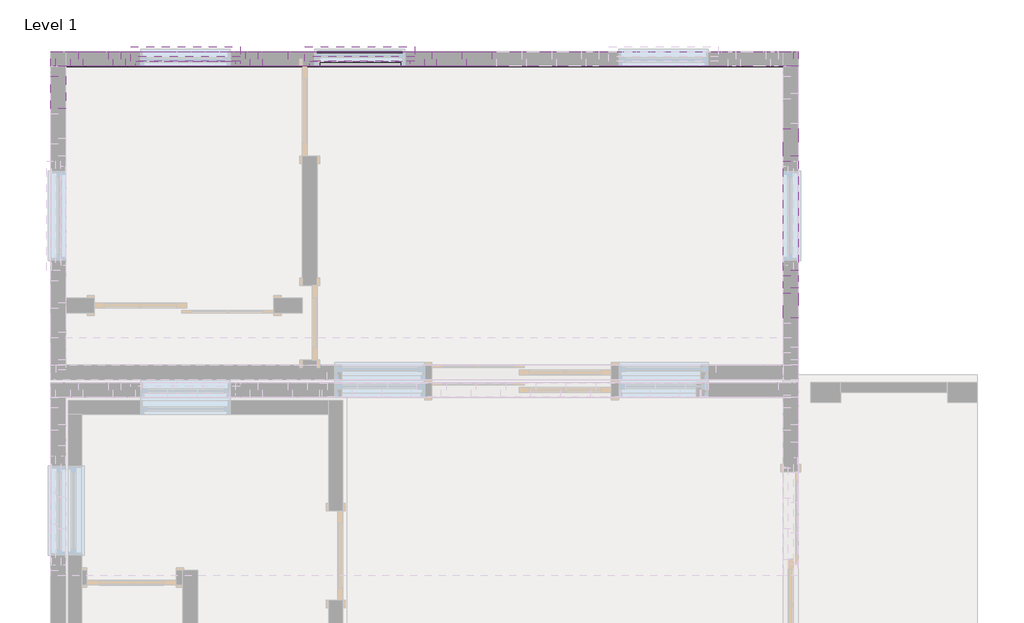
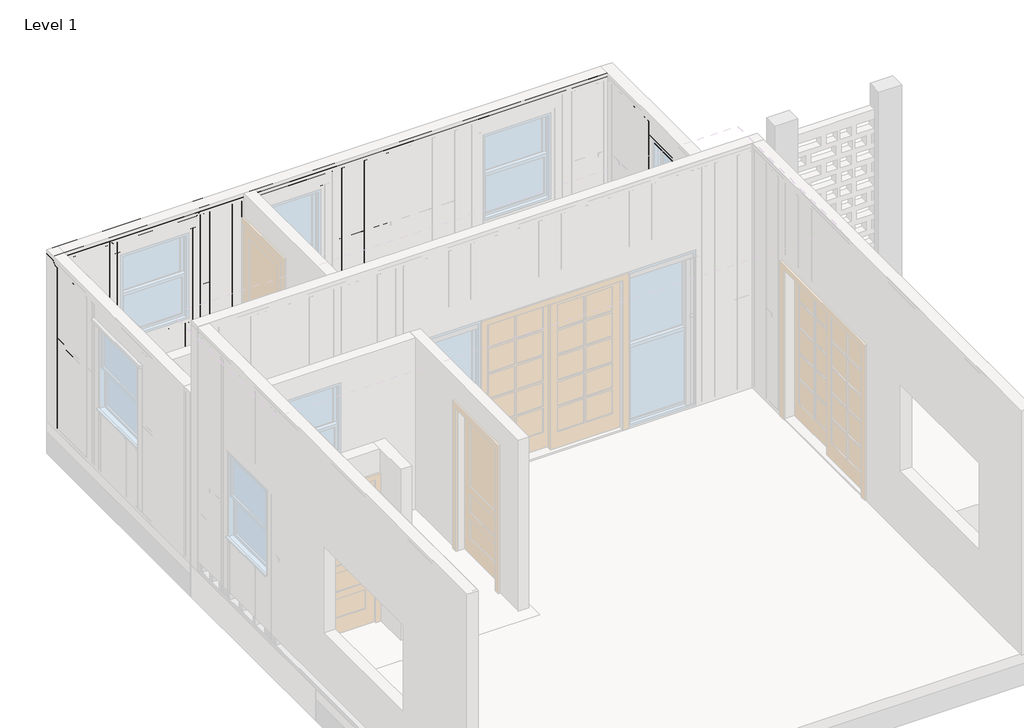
# One storey, part 11 of 12: 96 beams.
"""IFC4 building model written with IfcOpenShell, lengths in millimetres."""

from ifc_helpers import new_model, si_unit, frame, origin, origin_with_axes, place, context, project, spatial, polyline, outline, extrude, transform, mapped, element, save
from components import beam_7e1c7bff, beam_f315523f, beam_1339ae7a, beam_f39a6334, beam_836907a7, beam_e0318960, beam_733ad47f, beam_8a7418d2, beam_558964e0, beam_a7231d91, beam_47c8efd2, beam_e0216813, beam_53cde7c3, beam_b7962ac8, beam_e05c4371, beam_19b97b81, beam_9cccf745, beam_a2a0555c, beam_2d88acf2, beam_752c70e0, beam_6e482ad8, beam_b55a0d5f, beam_a4d90c35, beam_7e40e194, beam_9d6aa0d6, beam_9a5d82eb, beam_3f8316e0, beam_c7850aeb, beam_97ee1fa4, beam_1a8eef9e

model = new_model("IFC4")

# Units and contexts
model_context = context("Model", 3, world=origin())
ifc_project = project(units=[si_unit("LENGTHUNIT", "METRE", prefix="MILLI")], contexts=[model_context])

# Site, building, storey
site = spatial("IfcSite", under=ifc_project)
building = spatial("IfcBuilding", under=site)
storey = spatial("IfcBuildingStorey", under=building, Name="Level 1", Elevation=0.0)

# Beams
placement = place(None, origin())
beam_shape = beam_7e1c7bff(model_context)
element("IfcBeam", 1, ObjectType="Rectangular(Timber)-Beam : Timber_0' - 1 31/32\" x0' - 3 15/16\" _ContentGenerator", at=placement, inside=storey, context=model_context, shape_type="MappedRepresentation", body=[
    mapped(beam_shape, transform((-10158.0790766, -15508.8431336, 2235.2), x_axis=(1.0, 0.0, 0.0), y_axis=(0.0, 1.0, 0.0), z_axis=(0.0, 0.0, 1.0))),
])
element("IfcBeam", 2, ObjectType="Rectangular(Timber)-Beam : Timber_0' - 1 31/32\" x0' - 3 15/16\" _ContentGenerator", at=placement, inside=storey, context=model_context, shape_type="MappedRepresentation", body=[
    mapped(beam_shape, transform((-10158.0790766, -15508.8431336, 2235.2), x_axis=(1.0, 0.0, 0.0), y_axis=(0.0, 1.0, 0.0), z_axis=(0.0, 0.0, 1.0))),
])
element("IfcBeam", 3, ObjectType="Rectangular(Timber)-Beam : Timber_0' - 1 31/32\" x0' - 5 29/32\" _ContentGenerator", at=placement, inside=storey, context=model_context, shape_type="SweptSolid", body=[
    extrude(outline(polyline([(-3909.6790766, -16448.6731336), (-3909.6790766, -16499.4731336), (-4062.0790766, -16499.4731336), (-4062.0790766, -16448.6731336), (-3909.6790766, -16448.6731336)])), frame((0.0, 0.0, 50.8), z_axis=(0.0, 0.0, 1.0), x_axis=(1.0, 0.0, 0.0)), (0.0, 0.0, 1.0), 2286.0),
])
element("IfcBeam", 4, ObjectType="Rectangular(Timber)-Beam : Timber_0' - 1 31/32\" x0' - 5 29/32\" _ContentGenerator", at=placement, inside=storey, context=model_context, shape_type="SweptSolid", body=[
    extrude(outline(polyline([(2336.8, -3960.4740766), (2387.6, -3909.6740766), (2387.6, -11529.6690766), (2336.8, -11478.8690766), (2336.8, -3960.4740766)])), frame((0.0, -15534.2431336, 0.0), z_axis=(0.0, 1.0, 0.0), x_axis=(0.0, 0.0, 1.0)), (0.0, 0.0, 1.0), 152.4),
])
element("IfcBeam", 5, ObjectType="Rectangular(Timber)-Beam : Timber_0' - 1 31/32\" x0' - 5 29/32\" _ContentGenerator", at=placement, inside=storey, context=model_context, shape_type="SweptSolid", body=[
    extrude(outline(polyline([(2336.8, -11478.8690766), (2387.6, -11529.6690766), (0.0, -11529.6690766), (0.0, -11478.8690766), (2336.8, -11478.8690766)])), frame((0.0, -15534.2431336, 0.0), z_axis=(0.0, 1.0, 0.0), x_axis=(0.0, 0.0, 1.0)), (0.0, 0.0, 1.0), 152.4),
])
element("IfcBeam", 6, ObjectType="Rectangular(Timber)-Beam : Timber_0' - 1 31/32\" x0' - 5 29/32\" _ContentGenerator", at=placement, inside=storey, context=model_context, shape_type="SweptSolid", body=[
    extrude(outline(polyline([(2336.8, -9599.2690766), (2387.6, -9548.4690766), (2387.6, -10767.6690766), (2336.8, -10716.8690766), (2336.8, -9599.2690766)])), frame((0.0, -15534.2431336, 0.0), z_axis=(0.0, 1.0, 0.0), x_axis=(0.0, 0.0, 1.0)), (0.0, 0.0, 1.0), 152.4),
])
element("IfcBeam", 7, ObjectType="Rectangular(Timber)-Beam : Timber_0' - 1 31/32\" x0' - 5 29/32\" _ContentGenerator", at=placement, inside=storey, context=model_context, shape_type="SweptSolid", body=[
    extrude(outline(polyline([(2336.8, -10716.8690766), (2387.6, -10767.6690766), (50.8, -10767.6690766), (50.8, -10716.8690766), (2336.8, -10716.8690766)])), frame((0.0, -15534.2431336, 0.0), z_axis=(0.0, 1.0, 0.0), x_axis=(0.0, 0.0, 1.0)), (0.0, 0.0, 1.0), 152.4),
])
element("IfcBeam", 8, ObjectType="Rectangular(Timber)-Beam : Timber_0' - 1 31/32\" x0' - 5 29/32\" _ContentGenerator", at=placement, inside=storey, context=model_context, shape_type="SweptSolid", body=[
    extrude(outline(polyline([(2387.6, -9548.4690766), (2336.8, -9599.2690766), (50.8, -9599.2690766), (50.8, -9548.4690766), (2387.6, -9548.4690766)])), frame((0.0, -15534.2431336, 0.0), z_axis=(0.0, 1.0, 0.0), x_axis=(0.0, 0.0, 1.0)), (0.0, 0.0, 1.0), 152.4),
])
element("IfcBeam", 9, ObjectType="Rectangular(Timber)-Beam : Timber_0' - 1 31/32\" x0' - 5 29/32\" _ContentGenerator", at=placement, inside=storey, context=model_context, shape_type="SweptSolid", body=[
    extrude(outline(polyline([(-8938.8490766, -15534.2431336), (-8989.6490766, -15534.2431336), (-8989.6490766, -15381.8431336), (-8938.8490766, -15381.8431336), (-8938.8490766, -15534.2431336)])), frame((0.0, 0.0, 50.8), z_axis=(0.0, 0.0, 1.0), x_axis=(1.0, 0.0, 0.0)), (0.0, 0.0, 1.0), 2286.0),
])
element("IfcBeam", 10, ObjectType="Rectangular(Timber)-Beam : Timber_0' - 1 31/32\" x0' - 5 29/32\" _ContentGenerator", at=placement, inside=storey, context=model_context, shape_type="SweptSolid", body=[
    extrude(outline(polyline([(-7770.4890766, -15534.2431336), (-7821.2890766, -15534.2431336), (-7821.2890766, -15381.8431336), (-7770.4890766, -15381.8431336), (-7770.4890766, -15534.2431336)])), frame((0.0, 0.0, 50.8), z_axis=(0.0, 0.0, 1.0), x_axis=(1.0, 0.0, 0.0)), (0.0, 0.0, 1.0), 2286.0),
])
element("IfcBeam", 11, ObjectType="Rectangular(Timber)-Beam : Timber_0' - 1 31/32\" x0' - 5 29/32\" _ContentGenerator", at=placement, inside=storey, context=model_context, shape_type="SweptSolid", body=[
    extrude(outline(polyline([(-15585.0431336, 2336.8), (-15534.2431336, 2387.6), (-15534.2431336, 0.0), (-15585.0431336, 0.0), (-15585.0431336, 2336.8)])), frame((-11529.6790766, 0.0, 0.0), z_axis=(1.0, 0.0, 0.0), x_axis=(0.0, 1.0, 0.0)), (0.0, 0.0, 1.0), 152.4),
])
element("IfcBeam", 12, ObjectType="Rectangular(Timber)-Beam : Timber_0' - 1 31/32\" x0' - 5 29/32\" _ContentGenerator", at=placement, inside=storey, context=model_context, shape_type="SweptSolid", body=[
    extrude(outline(polyline([(-15585.0531336, 50.8), (-15585.0531336, 0.0), (-18734.6481336, 0.0), (-18683.8481336, 50.8), (-15585.0531336, 50.8)])), frame((-4062.0790766, 0.0, 0.0), z_axis=(1.0, 0.0, 0.0), x_axis=(0.0, 1.0, 0.0)), (0.0, 0.0, 1.0), 152.4),
])
element("IfcBeam", 13, ObjectType="Rectangular(Timber)-Beam : Timber_0' - 1 31/32\" x0' - 5 29/32\" _ContentGenerator", at=placement, inside=storey, context=model_context, shape_type="SweptSolid", body=[
    extrude(outline(polyline([(-11478.8690766, -15534.2431336), (-11478.8690766, -15381.8431336), (-3960.4740766, -15381.8431336), (-3960.4740766, -15534.2431336), (-11478.8690766, -15534.2431336)])), origin_with_axes(), (0.0, 0.0, 1.0), 50.8),
])
element("IfcBeam", 14, ObjectType="Rectangular(Timber)-Beam : Timber_0' - 1 31/32\" x0' - 5 29/32\" _ContentGenerator", at=placement, inside=storey, context=model_context, shape_type="SweptSolid", body=[
    extrude(outline(polyline([(-3909.6790766, -17617.0531342), (-4062.0790766, -17617.0531342), (-4062.0790766, -16499.4731336), (-3909.6790766, -16499.4731336), (-3909.6790766, -17617.0531342)])), frame((0.0, 0.0, 2101.85), z_axis=(0.0, 0.0, 1.0), x_axis=(1.0, 0.0, 0.0)), (0.0, 0.0, 1.0), 50.8),
])
element("IfcBeam", 15, ObjectType="Rectangular(Timber)-Beam : Timber_0' - 1 31/32\" x0' - 5 29/32\" _ContentGenerator", at=placement, inside=storey, context=model_context, shape_type="SweptSolid", body=[
    extrude(outline(polyline([(-3909.6790766, -17667.8531342), (-3909.6790766, -17718.6531342), (-4062.0790766, -17718.6531342), (-4062.0790766, -17667.8531342), (-3909.6790766, -17667.8531342)])), frame((0.0, 0.0, 50.8), z_axis=(0.0, 0.0, 1.0), x_axis=(1.0, 0.0, 0.0)), (0.0, 0.0, 1.0), 2286.0),
])
element("IfcBeam", 16, ObjectType="Rectangular(Timber)-Beam : Timber_0' - 1 31/32\" x0' - 5 29/32\" _ContentGenerator", at=placement, inside=storey, context=model_context, shape_type="SweptSolid", body=[
    extrude(outline(polyline([(-3909.6790766, -16397.8731336), (-3909.6790766, -16448.6731336), (-4062.0790766, -16448.6731336), (-4062.0790766, -16397.8731336), (-3909.6790766, -16397.8731336)])), frame((0.0, 0.0, 50.8), z_axis=(0.0, 0.0, 1.0), x_axis=(1.0, 0.0, 0.0)), (0.0, 0.0, 1.0), 2286.0),
])
element("IfcBeam", 17, ObjectType="Rectangular(Timber)-Beam : Timber_0' - 1 31/32\" x0' - 5 29/32\" _ContentGenerator", at=placement, inside=storey, context=model_context, shape_type="SweptSolid", body=[
    extrude(outline(polyline([(-8837.2790766, -15534.2431336), (-8888.0790766, -15534.2431336), (-8888.0790766, -15381.8431336), (-8837.2790766, -15381.8431336), (-8837.2790766, -15534.2431336)])), frame((0.0, 0.0, 50.8), z_axis=(0.0, 0.0, 1.0), x_axis=(1.0, 0.0, 0.0)), (0.0, 0.0, 1.0), 2082.8),
])
element("IfcBeam", 18, ObjectType="Rectangular(Timber)-Beam : Timber_0' - 1 31/32\" x0' - 5 29/32\" _ContentGenerator", at=placement, inside=storey, context=model_context, shape_type="SweptSolid", body=[
    extrude(outline(polyline([(-8888.0990766, -15534.2431336), (-8938.8990766, -15534.2431336), (-8938.8990766, -15381.8431336), (-8888.0990766, -15381.8431336), (-8888.0990766, -15534.2431336)])), frame((0.0, 0.0, 50.8), z_axis=(0.0, 0.0, 1.0), x_axis=(1.0, 0.0, 0.0)), (0.0, 0.0, 1.0), 2082.8),
])
element("IfcBeam", 19, ObjectType="Rectangular(Timber)-Beam : Timber_0' - 1 31/32\" x0' - 5 29/32\" _ContentGenerator", at=placement, inside=storey, context=model_context, shape_type="SweptSolid", body=[
    extrude(outline(polyline([(-8989.6490766, -15534.2431336), (-9040.4490766, -15534.2431336), (-9040.4490766, -15381.8431336), (-8989.6490766, -15381.8431336), (-8989.6490766, -15534.2431336)])), frame((0.0, 0.0, 50.8), z_axis=(0.0, 0.0, 1.0), x_axis=(1.0, 0.0, 0.0)), (0.0, 0.0, 1.0), 2286.0),
])
element("IfcBeam", 20, ObjectType="Rectangular(Timber)-Beam : Timber_0' - 1 31/32\" x0' - 5 29/32\" _ContentGenerator", at=placement, inside=storey, context=model_context, shape_type="SweptSolid", body=[
    extrude(outline(polyline([(-9497.6690766, -15534.2431336), (-9548.4690766, -15534.2431336), (-9548.4690766, -15381.8431336), (-9497.6690766, -15381.8431336), (-9497.6690766, -15534.2431336)])), frame((0.0, 0.0, 50.8), z_axis=(0.0, 0.0, 1.0), x_axis=(1.0, 0.0, 0.0)), (0.0, 0.0, 1.0), 2286.0),
])
element("IfcBeam", 21, ObjectType="Rectangular(Timber)-Beam : Timber_0' - 1 31/32\" x0' - 5 29/32\" _ContentGenerator", at=placement, inside=storey, context=model_context, shape_type="SweptSolid", body=[
    extrude(outline(polyline([(-10767.6690766, -15534.2431336), (-10818.4690766, -15534.2431336), (-10818.4690766, -15381.8431336), (-10767.6690766, -15381.8431336), (-10767.6690766, -15534.2431336)])), frame((0.0, 0.0, 50.8), z_axis=(0.0, 0.0, 1.0), x_axis=(1.0, 0.0, 0.0)), (0.0, 0.0, 1.0), 2286.0),
])
beam_2_shape = beam_f315523f(model_context)
element("IfcBeam", 22, ObjectType="Rectangular(Timber)-Beam : Timber_0' - 1 31/32\" x0' - 5 29/32\" _ContentGenerator", at=placement, inside=storey, context=model_context, shape_type="MappedRepresentation", body=[
    mapped(beam_2_shape, transform((-3985.8790766, -17731.3481339, 1314.45), x_axis=(0.0, 1.0000000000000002, 0.0), y_axis=(0.0, 0.0, -1.0000000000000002), z_axis=(-1.0000000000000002, 0.0, 0.0))),
])
beam_3_shape = beam_1339ae7a(model_context)
element("IfcBeam", 23, ObjectType="Rectangular(Timber)-Beam : Timber_0' - 1 31/32\" x0' - 5 29/32\" _ContentGenerator", at=placement, inside=storey, context=model_context, shape_type="MappedRepresentation", body=[
    mapped(beam_3_shape, transform((-3985.8790766, -16296.2431336, 1314.45), x_axis=(0.0, 1.0000000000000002, 0.0), y_axis=(0.0, 0.0, -1.0000000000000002), z_axis=(-1.0000000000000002, 0.0, 0.0))),
])
beam_4_shape = beam_f39a6334(model_context)
element("IfcBeam", 24, ObjectType="Rectangular(Timber)-Beam : Timber_0' - 1 31/32\" x0' - 5 29/32\" _ContentGenerator", at=placement, inside=storey, context=model_context, shape_type="MappedRepresentation", body=[
    mapped(beam_4_shape, transform((-9446.8740766, -15458.0431336, 1314.45), x_axis=(1.0000000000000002, 0.0, 0.0), y_axis=(0.0, 0.0, -1.0000000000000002), z_axis=(0.0, 1.0000000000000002, 0.0))),
])
beam_5_shape = beam_836907a7(model_context)
element("IfcBeam", 25, ObjectType="Rectangular(Timber)-Beam : Timber_0' - 1 31/32\" x0' - 5 29/32\" _ContentGenerator", at=placement, inside=storey, context=model_context, shape_type="MappedRepresentation", body=[
    mapped(beam_5_shape, transform((-7668.8840766, -15458.0431336, 1314.45), x_axis=(1.0000000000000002, 0.0, 0.0), y_axis=(0.0, 0.0, -1.0000000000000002), z_axis=(0.0, 1.0000000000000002, 0.0))),
])
beam_6_shape = beam_e0318960(model_context)
element("IfcBeam", 26, ObjectType="Rectangular(Timber)-Beam : Timber_0' - 1 31/32\" x0' - 5 29/32\" _ContentGenerator", at=placement, inside=storey, context=model_context, shape_type="MappedRepresentation", body=[
    mapped(beam_6_shape, transform((-8380.0690766, -15407.2431336, 2260.6), x_axis=(1.0, 0.0, 0.0), y_axis=(0.0, 1.0, 0.0), z_axis=(0.0, 0.0, 1.0))),
])
element("IfcBeam", 27, ObjectType="Rectangular(Timber)-Beam : Timber_0' - 1 31/32\" x0' - 5 29/32\" _ContentGenerator", at=placement, inside=storey, context=model_context, shape_type="MappedRepresentation", body=[
    mapped(beam_6_shape, transform((-8380.0690766, -15407.2431336, 2159.0), x_axis=(1.0, 0.0, 0.0), y_axis=(0.0, 0.0, -1.0), z_axis=(0.0, 1.0, 0.0))),
])
beam_7_shape = beam_733ad47f(model_context)
element("IfcBeam", 28, ObjectType="Rectangular(Timber)-Beam : Timber_0' - 1 31/32\" x0' - 5 29/32\" _ContentGenerator", at=placement, inside=storey, context=model_context, shape_type="MappedRepresentation", body=[
    mapped(beam_7_shape, transform((-10132.6790766, -15508.8431336, 2260.6), x_axis=(1.0, 0.0, 0.0), y_axis=(0.0, 1.0, 0.0), z_axis=(0.0, 0.0, 1.0))),
])
beam_8_shape = beam_8a7418d2(model_context)
element("IfcBeam", 29, ObjectType="Rectangular(Timber)-Beam : Timber_0' - 1 31/32\" x0' - 5 29/32\" _ContentGenerator", at=placement, inside=storey, context=model_context, shape_type="MappedRepresentation", body=[
    mapped(beam_8_shape, transform((-10158.0690766, -15407.2431336, 2260.6), x_axis=(1.0, 0.0, 0.0), y_axis=(0.0, 1.0, 0.0), z_axis=(0.0, 0.0, 1.0))),
])
element("IfcBeam", 30, ObjectType="Rectangular(Timber)-Beam : Timber_0' - 1 31/32\" x0' - 5 29/32\" _ContentGenerator", at=placement, inside=storey, context=model_context, shape_type="MappedRepresentation", body=[
    mapped(beam_8_shape, transform((-10158.0690766, -15407.2431336, 2159.0), x_axis=(1.0, 0.0, 0.0), y_axis=(0.0, 0.0, -1.0), z_axis=(0.0, 1.0, 0.0))),
])
beam_9_shape = beam_558964e0(model_context)
element("IfcBeam", 31, ObjectType="Rectangular(Timber)-Beam : Timber_0' - 1 31/32\" x0' - 5 29/32\" _ContentGenerator", at=placement, inside=storey, context=model_context, shape_type="MappedRepresentation", body=[
    mapped(beam_9_shape, transform((-3985.8790766, -16143.8431336, 1193.8), x_axis=(0.0, 0.0, 1.0), y_axis=(0.0, -1.0, 0.0), z_axis=(1.0, 0.0, 0.0))),
])
element("IfcBeam", 32, ObjectType="Rectangular(Timber)-Beam : Timber_0' - 1 31/32\" x0' - 5 29/32\" _ContentGenerator", at=placement, inside=storey, context=model_context, shape_type="MappedRepresentation", body=[
    mapped(beam_9_shape, transform((-11453.4690766, -15458.0431336, 1193.8), x_axis=(0.0, 0.0, 1.0), y_axis=(-1.0, 0.0, 0.0), z_axis=(0.0, -1.0, 0.0))),
])
element("IfcBeam", 33, ObjectType="Rectangular(Timber)-Beam : Timber_0' - 1 31/32\" x0' - 5 29/32\" _ContentGenerator", at=placement, inside=storey, context=model_context, shape_type="MappedRepresentation", body=[
    mapped(beam_9_shape, transform((-11402.6690766, -15458.0431336, 1193.8), x_axis=(0.0, 0.0, 1.0), y_axis=(-1.0, 0.0, 0.0), z_axis=(0.0, -1.0, 0.0))),
])
element("IfcBeam", 34, ObjectType="Rectangular(Timber)-Beam : Timber_0' - 1 31/32\" x0' - 5 29/32\" _ContentGenerator", at=placement, inside=storey, context=model_context, shape_type="MappedRepresentation", body=[
    mapped(beam_9_shape, transform((-11224.8790766, -15458.0431336, 1193.8), x_axis=(0.0, 0.0, 1.0), y_axis=(-1.0, 0.0, 0.0), z_axis=(0.0, -1.0, 0.0))),
])
element("IfcBeam", 35, ObjectType="Rectangular(Timber)-Beam : Timber_0' - 1 31/32\" x0' - 5 29/32\" _ContentGenerator", at=placement, inside=storey, context=model_context, shape_type="MappedRepresentation", body=[
    mapped(beam_9_shape, transform((-10920.0790766, -15458.0431336, 1193.8), x_axis=(0.0, 0.0, 1.0), y_axis=(-1.0, 0.0, 0.0), z_axis=(0.0, -1.0, 0.0))),
])
element("IfcBeam", 36, ObjectType="Rectangular(Timber)-Beam : Timber_0' - 1 31/32\" x0' - 5 29/32\" _ContentGenerator", at=placement, inside=storey, context=model_context, shape_type="MappedRepresentation", body=[
    mapped(beam_9_shape, transform((-9396.0790766, -15458.0431336, 1193.8), x_axis=(0.0, 0.0, 1.0), y_axis=(-1.0, 0.0, 0.0), z_axis=(0.0, -1.0, 0.0))),
])
element("IfcBeam", 37, ObjectType="Rectangular(Timber)-Beam : Timber_0' - 1 31/32\" x0' - 5 29/32\" _ContentGenerator", at=placement, inside=storey, context=model_context, shape_type="MappedRepresentation", body=[
    mapped(beam_9_shape, transform((-9091.2790766, -15458.0431336, 1193.8), x_axis=(0.0, 0.0, 1.0), y_axis=(-1.0, 0.0, 0.0), z_axis=(0.0, -1.0, 0.0))),
])
element("IfcBeam", 38, ObjectType="Rectangular(Timber)-Beam : Timber_0' - 1 31/32\" x0' - 5 29/32\" _ContentGenerator", at=placement, inside=storey, context=model_context, shape_type="MappedRepresentation", body=[
    mapped(beam_9_shape, transform((-7618.0790766, -15458.0431336, 1193.8), x_axis=(0.0, 0.0, 1.0), y_axis=(-1.0, 0.0, 0.0), z_axis=(0.0, -1.0, 0.0))),
])
element("IfcBeam", 39, ObjectType="Rectangular(Timber)-Beam : Timber_0' - 1 31/32\" x0' - 5 29/32\" _ContentGenerator", at=placement, inside=storey, context=model_context, shape_type="MappedRepresentation", body=[
    mapped(beam_9_shape, transform((-7313.2790766, -15458.0431336, 1193.8), x_axis=(0.0, 0.0, 1.0), y_axis=(-1.0, 0.0, 0.0), z_axis=(0.0, -1.0, 0.0))),
])
element("IfcBeam", 40, ObjectType="Rectangular(Timber)-Beam : Timber_0' - 1 31/32\" x0' - 5 29/32\" _ContentGenerator", at=placement, inside=storey, context=model_context, shape_type="MappedRepresentation", body=[
    mapped(beam_9_shape, transform((-7008.4790766, -15458.0431336, 1193.8), x_axis=(0.0, 0.0, 1.0), y_axis=(-1.0, 0.0, 0.0), z_axis=(0.0, -1.0, 0.0))),
])
element("IfcBeam", 41, ObjectType="Rectangular(Timber)-Beam : Timber_0' - 1 31/32\" x0' - 5 29/32\" _ContentGenerator", at=placement, inside=storey, context=model_context, shape_type="MappedRepresentation", body=[
    mapped(beam_9_shape, transform((-11453.4790766, -15610.4431336, 1193.8), x_axis=(0.0, 0.0, 1.0), y_axis=(0.0, -1.0, 0.0), z_axis=(1.0, 0.0, 0.0))),
])
element("IfcBeam", 42, ObjectType="Rectangular(Timber)-Beam : Timber_0' - 1 31/32\" x0' - 5 29/32\" _ContentGenerator", at=placement, inside=storey, context=model_context, shape_type="MappedRepresentation", body=[
    mapped(beam_9_shape, transform((-11453.4790766, -15991.4431336, 1193.8), x_axis=(0.0, 0.0, 1.0), y_axis=(0.0, -1.0, 0.0), z_axis=(1.0, 0.0, 0.0))),
])
element("IfcBeam", 43, ObjectType="Rectangular(Timber)-Beam : Timber_0' - 1 31/32\" x0' - 5 29/32\" _ContentGenerator", at=placement, inside=storey, context=model_context, shape_type="MappedRepresentation", body=[
    mapped(beam_9_shape, transform((-11351.8790766, -15458.0431336, 1193.8), x_axis=(0.0, 0.0, 1.0), y_axis=(-1.0, 0.0, 0.0), z_axis=(0.0, -1.0, 0.0))),
])
beam_10_shape = beam_a7231d91(model_context)
element("IfcBeam", 44, ObjectType="Rectangular(Timber)-Beam : Timber_0' - 1 31/32\" x0' - 5 29/32\" _ContentGenerator", at=placement, inside=storey, context=model_context, shape_type="MappedRepresentation", body=[
    mapped(beam_10_shape, transform((-10158.0790766, -15508.8431336, 2260.6), x_axis=(1.0, 0.0, 0.0), y_axis=(0.0, 1.0, 0.0), z_axis=(0.0, 0.0, 1.0))),
])
element("IfcBeam", 45, ObjectType="Rectangular(Timber)-Beam : Timber_0' - 1 31/32\" x0' - 5 29/32\" _ContentGenerator", at=placement, inside=storey, context=model_context, shape_type="MappedRepresentation", body=[
    mapped(beam_10_shape, transform((-8380.0790766, -15508.8431336, 2260.6), x_axis=(1.0, 0.0, 0.0), y_axis=(0.0, 1.0, 0.0), z_axis=(0.0, 0.0, 1.0))),
])
beam_11_shape = beam_47c8efd2(model_context)
element("IfcBeam", 46, ObjectType="Rectangular(Timber)-Beam : Timber_0' - 1 31/32\" x0' - 5 29/32\" _ContentGenerator", at=placement, inside=storey, context=model_context, shape_type="MappedRepresentation", body=[
    mapped(beam_11_shape, transform((-7719.6790766, -15458.0431336, 2413.0), x_axis=(1.0000000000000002, 0.0, 0.0), y_axis=(0.0, 0.0, -1.0000000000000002), z_axis=(0.0, 1.0000000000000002, 0.0))),
])
element("IfcBeam", 47, ObjectType="Rectangular(Timber)-Beam : Timber_0' - 1 31/32\" x0' - 5 29/32\" _ContentGenerator", at=placement, inside=storey, context=model_context, shape_type="MappedRepresentation", body=[
    mapped(beam_11_shape, transform((-7719.6790766, -15458.0431336, 2413.0), x_axis=(1.0000000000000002, 0.0, 0.0), y_axis=(0.0, 0.0, -1.0000000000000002), z_axis=(0.0, 1.0000000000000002, 0.0))),
])
element("IfcBeam", 48, ObjectType="Rectangular(Timber)-Beam : Timber_0' - 1 31/32\" x0' - 5 29/32\" _ContentGenerator", at=placement, inside=storey, context=model_context, shape_type="MappedRepresentation", body=[
    mapped(beam_11_shape, transform((-7719.6790766, -15458.0431336, 2413.0), x_axis=(1.0000000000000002, 0.0, 0.0), y_axis=(0.0, 0.0, -1.0000000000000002), z_axis=(0.0, 1.0000000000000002, 0.0))),
])
element("IfcBeam", 49, ObjectType="Rectangular(Timber)-Beam : Timber_0' - 1 31/32\" x0' - 5 29/32\" _ContentGenerator", at=placement, inside=storey, context=model_context, shape_type="MappedRepresentation", body=[
    mapped(beam_11_shape, transform((-7719.6790766, -15458.0431336, 2413.0), x_axis=(1.0000000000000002, 0.0, 0.0), y_axis=(0.0, 0.0, -1.0000000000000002), z_axis=(0.0, 1.0000000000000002, 0.0))),
])
beam_12_shape = beam_e0216813(model_context)
element("IfcBeam", 50, ObjectType="Rectangular(Timber)-Beam : Timber_0' - 1 31/32\" x0' - 5 29/32\" _ContentGenerator", at=placement, inside=storey, context=model_context, shape_type="MappedRepresentation", body=[
    mapped(beam_12_shape, transform((-10640.6690766, -15458.0431336, 1117.6), x_axis=(0.0, 0.0, 1.0), y_axis=(-1.0, 0.0, 0.0), z_axis=(0.0, -1.0, 0.0))),
])
element("IfcBeam", 51, ObjectType="Rectangular(Timber)-Beam : Timber_0' - 1 31/32\" x0' - 5 29/32\" _ContentGenerator", at=placement, inside=storey, context=model_context, shape_type="MappedRepresentation", body=[
    mapped(beam_12_shape, transform((-9675.4690766, -15458.0431336, 1117.6), x_axis=(0.0, 0.0, 1.0), y_axis=(-1.0, 0.0, 0.0), z_axis=(0.0, -1.0, 0.0))),
])
element("IfcBeam", 52, ObjectType="Rectangular(Timber)-Beam : Timber_0' - 1 31/32\" x0' - 5 29/32\" _ContentGenerator", at=placement, inside=storey, context=model_context, shape_type="MappedRepresentation", body=[
    mapped(beam_12_shape, transform((-7897.4690766, -15458.0431336, 1117.6), x_axis=(0.0, 0.0, 1.0), y_axis=(-1.0, 0.0, 0.0), z_axis=(0.0, -1.0, 0.0))),
])
element("IfcBeam", 53, ObjectType="Rectangular(Timber)-Beam : Timber_0' - 1 31/32\" x0' - 5 29/32\" _ContentGenerator", at=placement, inside=storey, context=model_context, shape_type="MappedRepresentation", body=[
    mapped(beam_12_shape, transform((-9624.6590766, -15458.0431336, 1117.6), x_axis=(0.0, 0.0, 1.0), y_axis=(-1.0, 0.0, 0.0), z_axis=(0.0, -1.0, 0.0))),
])
element("IfcBeam", 54, ObjectType="Rectangular(Timber)-Beam : Timber_0' - 1 31/32\" x0' - 5 29/32\" _ContentGenerator", at=placement, inside=storey, context=model_context, shape_type="MappedRepresentation", body=[
    mapped(beam_12_shape, transform((-10691.4790766, -15458.0431336, 1117.6), x_axis=(0.0, 0.0, 1.0), y_axis=(-1.0, 0.0, 0.0), z_axis=(0.0, -1.0, 0.0))),
])
beam_13_shape = beam_53cde7c3(model_context)
element("IfcBeam", 55, ObjectType="Rectangular(Timber)-Beam : Timber_0' - 1 31/32\" x0' - 5 29/32\" _ContentGenerator", at=placement, inside=storey, context=model_context, shape_type="MappedRepresentation", body=[
    mapped(beam_13_shape, transform((-7719.6715766, -15458.0431336, 25.4), x_axis=(-1.0000000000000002, 0.0, 0.0), y_axis=(0.0, 0.0, -1.0000000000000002), z_axis=(0.0, -1.0000000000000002, 0.0))),
])
element("IfcBeam", 56, ObjectType="Rectangular(Timber)-Beam : Timber_0' - 1 31/32\" x0' - 5 29/32\" _ContentGenerator", at=placement, inside=storey, context=model_context, shape_type="MappedRepresentation", body=[
    mapped(beam_13_shape, transform((-7719.6715766, -15458.0431336, 25.4), x_axis=(-1.0000000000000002, 0.0, 0.0), y_axis=(0.0, 0.0, -1.0000000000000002), z_axis=(0.0, -1.0000000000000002, 0.0))),
])
beam_14_shape = beam_b7962ac8(model_context)
element("IfcBeam", 57, ObjectType="Rectangular(Timber)-Beam : Timber_0' - 1 31/32\" x0' - 5 29/32\" _ContentGenerator", at=placement, inside=storey, context=model_context, shape_type="MappedRepresentation", body=[
    mapped(beam_14_shape, transform((-3985.8790766, -16626.4531336, 457.2), x_axis=(0.0, 0.0, 1.0), y_axis=(0.0, -1.0, 0.0), z_axis=(1.0, 0.0, 0.0))),
])
element("IfcBeam", 58, ObjectType="Rectangular(Timber)-Beam : Timber_0' - 1 31/32\" x0' - 5 29/32\" _ContentGenerator", at=placement, inside=storey, context=model_context, shape_type="MappedRepresentation", body=[
    mapped(beam_14_shape, transform((-3985.8790766, -17185.2531336, 457.2), x_axis=(0.0, 0.0, 1.0), y_axis=(0.0, -1.0, 0.0), z_axis=(1.0, 0.0, 0.0))),
])
element("IfcBeam", 59, ObjectType="Rectangular(Timber)-Beam : Timber_0' - 1 31/32\" x0' - 5 29/32\" _ContentGenerator", at=placement, inside=storey, context=model_context, shape_type="MappedRepresentation", body=[
    mapped(beam_14_shape, transform((-3985.8790766, -16880.4531336, 457.2), x_axis=(0.0, 0.0, 1.0), y_axis=(0.0, -1.0, 0.0), z_axis=(1.0, 0.0, 0.0))),
])
element("IfcBeam", 60, ObjectType="Rectangular(Timber)-Beam : Timber_0' - 1 31/32\" x0' - 5 29/32\" _ContentGenerator", at=placement, inside=storey, context=model_context, shape_type="MappedRepresentation", body=[
    mapped(beam_14_shape, transform((-10589.8690766, -15458.0431336, 457.2), x_axis=(0.0, 0.0, 1.0), y_axis=(-1.0, 0.0, 0.0), z_axis=(0.0, -1.0, 0.0))),
])
element("IfcBeam", 61, ObjectType="Rectangular(Timber)-Beam : Timber_0' - 1 31/32\" x0' - 5 29/32\" _ContentGenerator", at=placement, inside=storey, context=model_context, shape_type="MappedRepresentation", body=[
    mapped(beam_14_shape, transform((-9726.2690766, -15458.0431336, 457.2), x_axis=(0.0, 0.0, 1.0), y_axis=(-1.0, 0.0, 0.0), z_axis=(0.0, -1.0, 0.0))),
])
element("IfcBeam", 62, ObjectType="Rectangular(Timber)-Beam : Timber_0' - 1 31/32\" x0' - 5 29/32\" _ContentGenerator", at=placement, inside=storey, context=model_context, shape_type="MappedRepresentation", body=[
    mapped(beam_14_shape, transform((-10318.9457433, -15458.0431336, 457.2), x_axis=(0.0, 0.0, 1.0), y_axis=(-1.0, 0.0, 0.0), z_axis=(0.0, -1.0, 0.0))),
])
element("IfcBeam", 63, ObjectType="Rectangular(Timber)-Beam : Timber_0' - 1 31/32\" x0' - 5 29/32\" _ContentGenerator", at=placement, inside=storey, context=model_context, shape_type="MappedRepresentation", body=[
    mapped(beam_14_shape, transform((-9997.2124099, -15458.0431336, 457.2), x_axis=(0.0, 0.0, 1.0), y_axis=(-1.0, 0.0, 0.0), z_axis=(0.0, -1.0, 0.0))),
])
element("IfcBeam", 64, ObjectType="Rectangular(Timber)-Beam : Timber_0' - 1 31/32\" x0' - 5 29/32\" _ContentGenerator", at=placement, inside=storey, context=model_context, shape_type="MappedRepresentation", body=[
    mapped(beam_13_shape, transform((-7719.6715766, -15458.0431336, 2362.2), x_axis=(1.0000000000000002, 0.0, 0.0), y_axis=(0.0, 0.0, -1.0000000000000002), z_axis=(0.0, 1.0000000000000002, 0.0))),
])
element("IfcBeam", 65, ObjectType="Rectangular(Timber)-Beam : Timber_0' - 1 31/32\" x0' - 5 29/32\" _ContentGenerator", at=placement, inside=storey, context=model_context, shape_type="MappedRepresentation", body=[
    mapped(beam_13_shape, transform((-7719.6715766, -15458.0431336, 2362.2), x_axis=(1.0000000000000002, 0.0, 0.0), y_axis=(0.0, 0.0, -1.0000000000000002), z_axis=(0.0, 1.0000000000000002, 0.0))),
])
element("IfcBeam", 66, ObjectType="Rectangular(Timber)-Beam : Timber_0' - 1 31/32\" x0' - 5 29/32\" _ContentGenerator", at=placement, inside=storey, context=model_context, shape_type="MappedRepresentation", body=[
    mapped(beam_13_shape, transform((-7719.6715766, -15458.0431336, 2362.2), x_axis=(1.0000000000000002, 0.0, 0.0), y_axis=(0.0, 0.0, -1.0000000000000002), z_axis=(0.0, 1.0000000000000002, 0.0))),
])
element("IfcBeam", 67, ObjectType="Rectangular(Timber)-Beam : Timber_0' - 1 31/32\" x0' - 5 29/32\" _ContentGenerator", at=placement, inside=storey, context=model_context, shape_type="MappedRepresentation", body=[
    mapped(beam_13_shape, transform((-7719.6715766, -15458.0431336, 2362.2), x_axis=(1.0000000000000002, 0.0, 0.0), y_axis=(0.0, 0.0, -1.0000000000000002), z_axis=(0.0, 1.0000000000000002, 0.0))),
])
beam_15_shape = beam_e05c4371(model_context)
element("IfcBeam", 68, ObjectType="Rectangular(Timber)-Beam : Timber_0' - 1 31/32\" x0' - 5 29/32\" _ContentGenerator", at=placement, inside=storey, context=model_context, shape_type="MappedRepresentation", body=[
    mapped(beam_15_shape, transform((-10158.0690766, -15458.0431336, 889.0), x_axis=(1.0000000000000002, 0.0, 0.0), y_axis=(0.0, 0.0, -1.0000000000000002), z_axis=(0.0, 1.0000000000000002, 0.0))),
])
beam_16_shape = beam_19b97b81(model_context)
element("IfcBeam", 69, ObjectType="Rectangular(Timber)-Beam : Timber_0' - 1 31/32\" x0' - 5 29/32\" _ContentGenerator", at=placement, inside=storey, context=model_context, shape_type="MappedRepresentation", body=[
    mapped(beam_16_shape, transform((-11072.4790766, -15458.0431336, 1314.45), x_axis=(1.0000000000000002, 0.0, 0.0), y_axis=(0.0, 0.0, -1.0000000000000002), z_axis=(0.0, 1.0000000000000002, 0.0))),
])
element("IfcBeam", 70, ObjectType="Rectangular(Timber)-Beam : Timber_0' - 1 31/32\" x0' - 5 29/32\" _ContentGenerator", at=placement, inside=storey, context=model_context, shape_type="MappedRepresentation", body=[
    mapped(beam_16_shape, transform((-9243.6790766, -15458.0431336, 1314.45), x_axis=(1.0000000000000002, 0.0, 0.0), y_axis=(0.0, 0.0, -1.0000000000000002), z_axis=(0.0, 1.0000000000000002, 0.0))),
])
element("IfcBeam", 71, ObjectType="Rectangular(Timber)-Beam : Timber_0' - 1 31/32\" x0' - 5 29/32\" _ContentGenerator", at=placement, inside=storey, context=model_context, shape_type="MappedRepresentation", body=[
    mapped(beam_16_shape, transform((-7465.6790766, -15458.0431336, 1314.45), x_axis=(1.0000000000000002, 0.0, 0.0), y_axis=(0.0, 0.0, -1.0000000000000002), z_axis=(0.0, 1.0000000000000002, 0.0))),
])
element("IfcBeam", 72, ObjectType="Rectangular(Timber)-Beam : Timber_0' - 1 31/32\" x0' - 5 29/32\" _ContentGenerator", at=placement, inside=storey, context=model_context, shape_type="MappedRepresentation", body=[
    mapped(beam_16_shape, transform((-7160.8790766, -15458.0431336, 1314.45), x_axis=(1.0000000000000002, 0.0, 0.0), y_axis=(0.0, 0.0, -1.0000000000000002), z_axis=(0.0, 1.0000000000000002, 0.0))),
])
beam_17_shape = beam_9cccf745(model_context)
element("IfcBeam", 73, ObjectType="Rectangular(Timber)-Beam : Timber_0' - 1 31/32\" x0' - 5 29/32\" _ContentGenerator", at=placement, inside=storey, context=model_context, shape_type="MappedRepresentation", body=[
    mapped(beam_17_shape, transform((-11453.4790766, -15800.9431336, 1314.45), x_axis=(0.0, 1.0000000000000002, 0.0), y_axis=(0.0, 0.0, -1.0000000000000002), z_axis=(-1.0000000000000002, 0.0, 0.0))),
])
beam_18_shape = beam_a2a0555c(model_context)
element("IfcBeam", 74, ObjectType="Rectangular(Timber)-Beam : Timber_0' - 1 31/32\" x0' - 5 29/32\" _ContentGenerator", at=placement, inside=storey, context=model_context, shape_type="MappedRepresentation", body=[
    mapped(beam_18_shape, transform((-10869.2740766, -15458.0431336, 1314.45), x_axis=(1.0000000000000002, 0.0, 0.0), y_axis=(0.0, 0.0, -1.0000000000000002), z_axis=(0.0, 1.0000000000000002, 0.0))),
])
beam_19_shape = beam_2d88acf2(model_context)
element("IfcBeam", 75, ObjectType="Rectangular(Timber)-Beam : Timber_0' - 1 31/32\" x0' - 5 29/32\" _ContentGenerator", at=placement, inside=storey, context=model_context, shape_type="MappedRepresentation", body=[
    mapped(beam_19_shape, transform((-3985.8790766, -17985.3431336, 1314.45), x_axis=(0.0, 1.0000000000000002, 0.0), y_axis=(0.0, 0.0, -1.0000000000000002), z_axis=(-1.0000000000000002, 0.0, 0.0))),
])
beam_20_shape = beam_752c70e0(model_context)
element("IfcBeam", 76, ObjectType="Rectangular(Timber)-Beam : Timber_0' - 1 31/32\" x0' - 5 29/32\" _ContentGenerator", at=placement, inside=storey, context=model_context, shape_type="MappedRepresentation", body=[
    mapped(beam_20_shape, transform((-11275.6790766, -15458.0431336, 1314.45), x_axis=(1.0000000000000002, 0.0, 0.0), y_axis=(0.0, 0.0, -1.0000000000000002), z_axis=(0.0, 1.0000000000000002, 0.0))),
])
beam_21_shape = beam_6e482ad8(model_context)
element("IfcBeam", 77, ObjectType="Rectangular(Timber)-Beam : Timber_0' - 1 31/32\" x0' - 5 29/32\" _ContentGenerator", at=placement, inside=storey, context=model_context, shape_type="MappedRepresentation", body=[
    mapped(beam_21_shape, transform((-3985.8790766, -16575.6531336, 1076.325), x_axis=(0.0, 0.0, 1.0), y_axis=(0.0, -1.0, 0.0), z_axis=(1.0, 0.0, 0.0))),
])
element("IfcBeam", 78, ObjectType="Rectangular(Timber)-Beam : Timber_0' - 1 31/32\" x0' - 5 29/32\" _ContentGenerator", at=placement, inside=storey, context=model_context, shape_type="MappedRepresentation", body=[
    mapped(beam_21_shape, transform((-3985.8790766, -17591.6531336, 1076.325), x_axis=(0.0, 0.0, 1.0), y_axis=(0.0, -1.0, 0.0), z_axis=(1.0, 0.0, 0.0))),
])
element("IfcBeam", 79, ObjectType="Rectangular(Timber)-Beam : Timber_0' - 1 31/32\" x0' - 5 29/32\" _ContentGenerator", at=placement, inside=storey, context=model_context, shape_type="MappedRepresentation", body=[
    mapped(beam_21_shape, transform((-3985.8790766, -16524.8531336, 1076.325), x_axis=(0.0, 0.0, 1.0), y_axis=(0.0, -1.0, 0.0), z_axis=(1.0, 0.0, 0.0))),
])
beam_22_shape = beam_b55a0d5f(model_context)
element("IfcBeam", 80, ObjectType="WallPlates : 6\" x 3\"", at=placement, inside=storey, context=model_context, shape_type="MappedRepresentation", body=[
    mapped(beam_22_shape, transform((-3944.5990766, -16296.2431336, 791.1798851), x_axis=(0.0, 1.0000000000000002, 0.0), y_axis=(0.0, 0.0, -1.0000000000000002), z_axis=(-1.0000000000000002, 0.0, 0.0))),
])
beam_23_shape = beam_a4d90c35(model_context)
element("IfcBeam", 81, ObjectType="WallPlates : 6\" x 3\"", at=placement, inside=storey, context=model_context, shape_type="MappedRepresentation", body=[
    mapped(beam_23_shape, transform((-3944.5990766, -16778.8531336, 793.75), x_axis=(0.0, 1.0000000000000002, 0.0), y_axis=(0.0, 0.0, -1.0000000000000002), z_axis=(-1.0000000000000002, 0.0, 0.0))),
])
beam_24_shape = beam_7e40e194(model_context)
element("IfcBeam", 82, ObjectType="WallPlates : 6\" x 3\"", at=placement, inside=storey, context=model_context, shape_type="MappedRepresentation", body=[
    mapped(beam_24_shape, transform((-11494.7540766, -15813.6431336, 793.75), x_axis=(0.0, 1.0000000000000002, 0.0), y_axis=(0.0, 0.0, -1.0000000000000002), z_axis=(-1.0000000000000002, 0.0, 0.0))),
])
beam_25_shape = beam_9d6aa0d6(model_context)
element("IfcBeam", 83, ObjectType="WallPlates : 6\" x 3\"", at=placement, inside=storey, context=model_context, shape_type="MappedRepresentation", body=[
    mapped(beam_25_shape, transform((-3944.5990766, -17998.0431336, 1219.2), x_axis=(0.0, 1.0000000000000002, 0.0), y_axis=(0.0, 0.0, -1.0000000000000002), z_axis=(-1.0000000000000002, 0.0, 0.0))),
])
element("IfcBeam", 84, ObjectType="WallPlates : 6\" x 3\"", at=placement, inside=storey, context=model_context, shape_type="MappedRepresentation", body=[
    mapped(beam_25_shape, transform((-3944.5990766, -17998.0431336, 791.1798851), x_axis=(0.0, 1.0000000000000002, 0.0), y_axis=(0.0, 0.0, -1.0000000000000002), z_axis=(-1.0000000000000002, 0.0, 0.0))),
])
element("IfcBeam", 85, ObjectType="WallPlates : 6\" x 3\"", at=placement, inside=storey, context=model_context, shape_type="MappedRepresentation", body=[
    mapped(beam_25_shape, transform((-3944.5990766, -17058.2531336, 793.75), x_axis=(0.0, 1.0000000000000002, 0.0), y_axis=(0.0, 0.0, -1.0000000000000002), z_axis=(-1.0000000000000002, 0.0, 0.0))),
])
beam_26_shape = beam_9a5d82eb(model_context)
element("IfcBeam", 86, ObjectType="WallPlates : 6\" x 3\"", at=placement, inside=storey, context=model_context, shape_type="MappedRepresentation", body=[
    mapped(beam_26_shape, transform((-3944.5990766, -17731.3481336, 1219.2), x_axis=(0.0, 1.0000000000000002, 0.0), y_axis=(0.0, 0.0, -1.0000000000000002), z_axis=(-1.0000000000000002, 0.0, 0.0))),
])
element("IfcBeam", 87, ObjectType="WallPlates : 6\" x 3\"", at=placement, inside=storey, context=model_context, shape_type="MappedRepresentation", body=[
    mapped(beam_26_shape, transform((-3944.5990766, -17731.3481336, 791.1798851), x_axis=(0.0, 1.0000000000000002, 0.0), y_axis=(0.0, 0.0, -1.0000000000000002), z_axis=(-1.0000000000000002, 0.0, 0.0))),
])
beam_27_shape = beam_3f8316e0(model_context)
element("IfcBeam", 88, ObjectType="WallPlates : 6\" x 3\"", at=placement, inside=storey, context=model_context, shape_type="MappedRepresentation", body=[
    mapped(beam_27_shape, transform((-3944.5990766, -16486.7481336, 1219.2), x_axis=(0.0, 1.0000000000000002, 0.0), y_axis=(0.0, 0.0, -1.0000000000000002), z_axis=(-1.0000000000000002, 0.0, 0.0))),
])
element("IfcBeam", 89, ObjectType="WallPlates : 6\" x 3\"", at=placement, inside=storey, context=model_context, shape_type="MappedRepresentation", body=[
    mapped(beam_22_shape, transform((-3944.5990766, -16296.2431336, 1219.2), x_axis=(0.0, 1.0000000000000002, 0.0), y_axis=(0.0, 0.0, -1.0000000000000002), z_axis=(-1.0000000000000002, 0.0, 0.0))),
])
element("IfcBeam", 90, ObjectType="WallPlates : 6\" x 3\"", at=placement, inside=storey, context=model_context, shape_type="MappedRepresentation", body=[
    mapped(beam_22_shape, transform((-11072.4790766, -15416.7681336, 1219.2), x_axis=(1.0000000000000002, 0.0, 0.0), y_axis=(0.0, 0.0, -1.0000000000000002), z_axis=(0.0, 1.0000000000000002, 0.0))),
])
element("IfcBeam", 91, ObjectType="WallPlates : 6\" x 3\"", at=placement, inside=storey, context=model_context, shape_type="MappedRepresentation", body=[
    mapped(beam_26_shape, transform((-9484.9740766, -15416.7681336, 1219.2), x_axis=(1.0000000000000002, 0.0, 0.0), y_axis=(0.0, 0.0, -1.0000000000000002), z_axis=(0.0, 1.0000000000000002, 0.0))),
])
beam_28_shape = beam_c7850aeb(model_context)
element("IfcBeam", 92, ObjectType="WallPlates : 6\" x 3\"", at=placement, inside=storey, context=model_context, shape_type="MappedRepresentation", body=[
    mapped(beam_28_shape, transform((-10805.7740766, -15416.7681336, 1219.2), x_axis=(1.0000000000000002, 0.0, 0.0), y_axis=(0.0, 0.0, -1.0000000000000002), z_axis=(0.0, 1.0000000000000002, 0.0))),
])
beam_29_shape = beam_97ee1fa4(model_context)
element("IfcBeam", 93, ObjectType="WallPlates : 6\" x 3\"", at=placement, inside=storey, context=model_context, shape_type="MappedRepresentation", body=[
    mapped(beam_29_shape, transform((-11288.3790766, -15416.7681336, 1219.2), x_axis=(1.0000000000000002, 0.0, 0.0), y_axis=(0.0, 0.0, -1.0000000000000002), z_axis=(0.0, 1.0000000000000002, 0.0))),
])
beam_30_shape = beam_1a8eef9e(model_context)
element("IfcBeam", 94, ObjectType="WallPlates : 6\" x 3\"", at=placement, inside=storey, context=model_context, shape_type="MappedRepresentation", body=[
    mapped(beam_30_shape, transform((-11494.7540766, -15800.9431336, 1219.2), x_axis=(0.0, 1.0000000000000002, 0.0), y_axis=(0.0, 0.0, -1.0000000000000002), z_axis=(-1.0000000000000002, 0.0, 0.0))),
])
element("IfcBeam", 95, ObjectType="WallPlates : 6\" x 3\"", at=placement, inside=storey, context=model_context, shape_type="MappedRepresentation", body=[
    mapped(beam_25_shape, transform((-9218.2790766, -15416.7681336, 1219.2), x_axis=(1.0000000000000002, 0.0, 0.0), y_axis=(0.0, 0.0, -1.0000000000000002), z_axis=(0.0, 1.0000000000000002, 0.0))),
])
element("IfcBeam", 96, ObjectType="WallPlates : 6\" x 3\"", at=placement, inside=storey, context=model_context, shape_type="MappedRepresentation", body=[
    mapped(beam_25_shape, transform((-3944.5990766, -17363.0531336, 793.75), x_axis=(0.0, 1.0000000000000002, 0.0), y_axis=(0.0, 0.0, -1.0000000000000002), z_axis=(-1.0000000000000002, 0.0, 0.0))),
])

save(model, "model.ifc")
